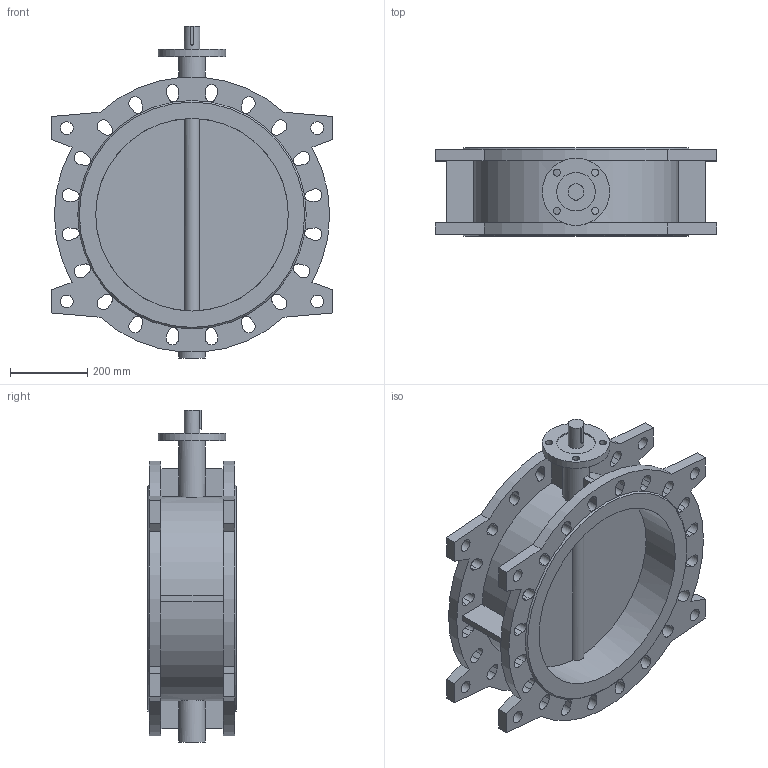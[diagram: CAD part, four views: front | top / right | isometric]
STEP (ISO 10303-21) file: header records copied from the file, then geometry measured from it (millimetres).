
FILE_DESCRIPTION(('STEP AP203'), '1');
FILE_NAME('Çàòâîð 021F.Y DN500 PN10_16 ïîä ÝÏ', '', ('UNSPECIFIED'), ('UNSPECIFIED'), 'ASCON STEP Converter 1.6', 'ASCON Math Kernel', '');
FILE_SCHEMA(('CONFIG_CONTROL_DESIGN'));
Length unit declared in the file: millimetre
Bounding box: 730 x 229 x 862 mm (x, y, z)
Volume: 22173042.6 mm3; surface area: 2301346.1 mm2
Topology: 1 solids, 1 shells, 256 faces, 735 edges, 490 vertices
Faces by surface type: plane 140, cylinder 114, cone 2
Full cylindrical faces by diameter (mm): 18 x4, 33 x8, 41.2 x1, 70 x2, 100 x1, 175 x1, 500 x2
Entity records: 11519 total; most frequent: CARTESIAN_POINT 2378, DIRECTION 1451, ORIENTED_EDGE 1428, EDGE_CURVE 714, AXIS2_PLACEMENT_3D 491, VERTEX_POINT 490, LINE 469, VECTOR 469
